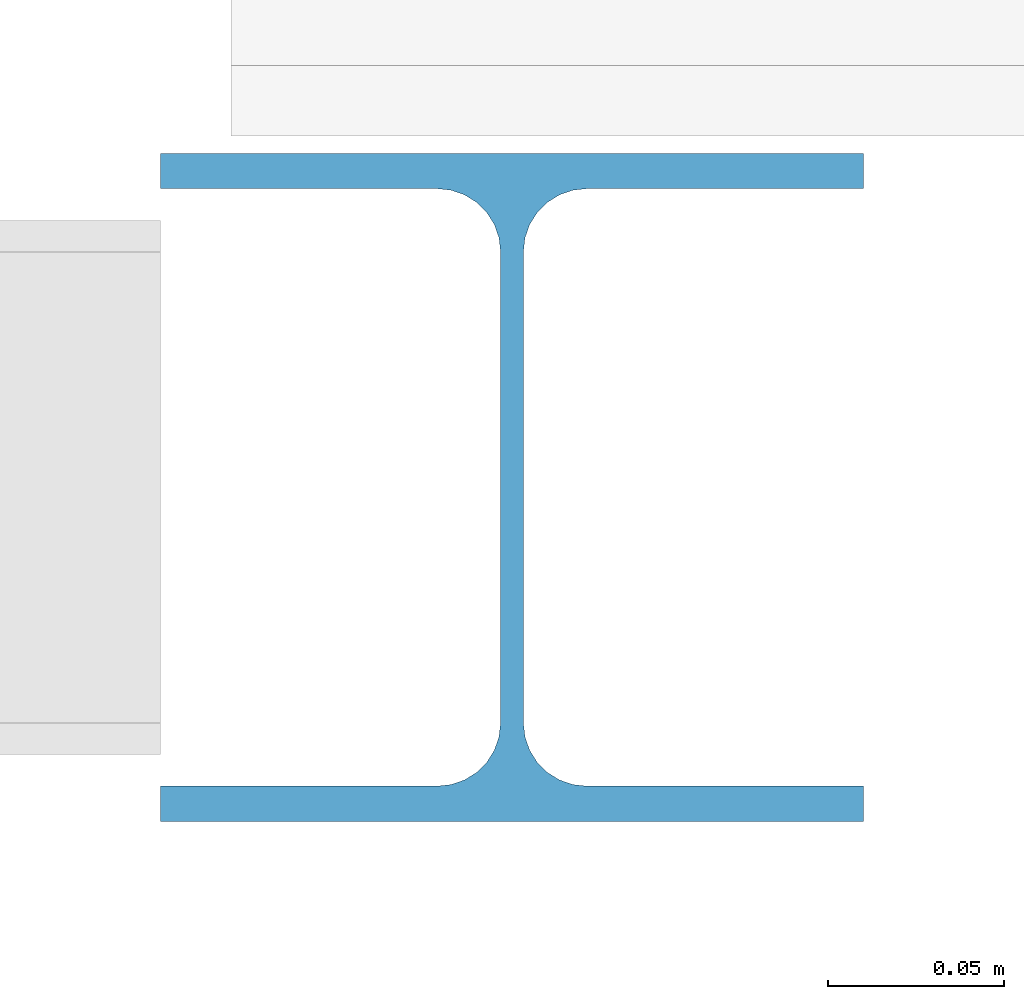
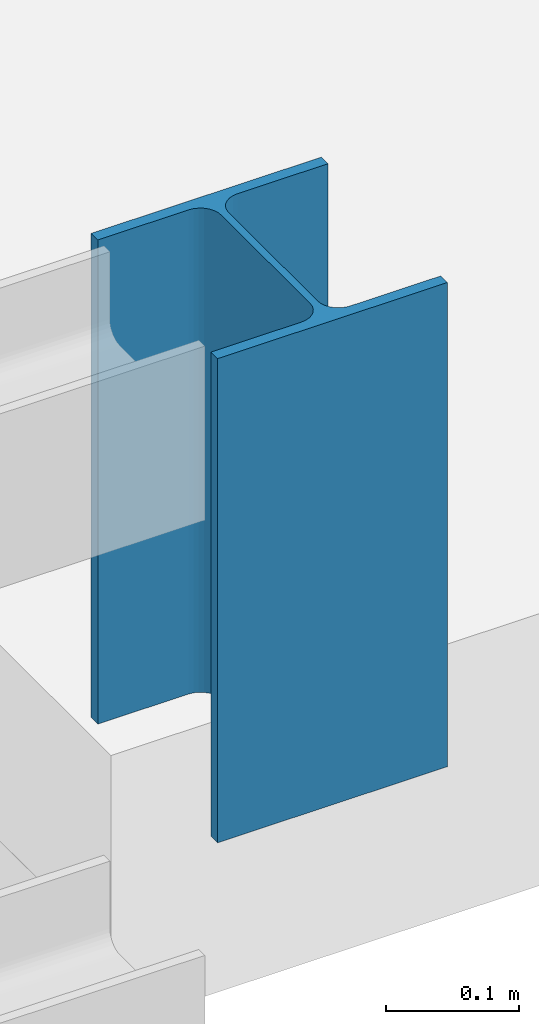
# One storey, part 6 of 36: 1 column.
"""IFC2X3 building model written with IfcOpenShell, lengths in millimetres."""

from ifc_helpers import new_model, entity, si_unit, converted_unit, derived_unit, direction, frame, frame_2d, origin, place, context, subcontext, project, spatial, polyline, circle_curve, parameter, trimmed, segment, composite_curve, outline, extrude, source, transform, mapped, material, type_object, type_shapes, element, save


model = new_model("IFC2X3")

# Units and contexts
model_context = context("Model", 3, precision=0.01, world=origin(), true_north=direction((6.12303176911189e-17, 1.0)))
body_context = subcontext(model_context, "Body", "Model", "MODEL_VIEW")
ifc_project = project(units=[si_unit("LENGTHUNIT", "METRE", prefix="MILLI"), si_unit("AREAUNIT", "SQUARE_METRE"), si_unit("VOLUMEUNIT", "CUBIC_METRE"), converted_unit("PLANEANGLEUNIT", "DEGREE", entity("IfcRatioMeasure", 0.0174532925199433), si_unit("PLANEANGLEUNIT", "RADIAN"), dimensions=[0, 0, 0, 0, 0, 0, 0]), si_unit("MASSUNIT", "GRAM", prefix="KILO"), derived_unit("MASSDENSITYUNIT", [(si_unit("MASSUNIT", "GRAM", prefix="KILO"), 1), (si_unit("LENGTHUNIT", "METRE"), -3)]), si_unit("TIMEUNIT", "SECOND"), si_unit("FREQUENCYUNIT", "HERTZ"), si_unit("THERMODYNAMICTEMPERATUREUNIT", "DEGREE_CELSIUS"), derived_unit("THERMALTRANSMITTANCEUNIT", [(si_unit("MASSUNIT", "GRAM", prefix="KILO"), 1), (si_unit("THERMODYNAMICTEMPERATUREUNIT", "KELVIN"), -1), (si_unit("TIMEUNIT", "SECOND"), -3)]), derived_unit("VOLUMETRICFLOWRATEUNIT", [(si_unit("LENGTHUNIT", "METRE"), 3), (si_unit("TIMEUNIT", "SECOND"), -1)]), si_unit("ELECTRICCURRENTUNIT", "AMPERE"), si_unit("ELECTRICVOLTAGEUNIT", "VOLT"), si_unit("POWERUNIT", "WATT"), si_unit("FORCEUNIT", "NEWTON", prefix="KILO"), si_unit("ILLUMINANCEUNIT", "LUX"), si_unit("LUMINOUSFLUXUNIT", "LUMEN"), si_unit("LUMINOUSINTENSITYUNIT", "CANDELA"), derived_unit("USERDEFINED", [(si_unit("MASSUNIT", "GRAM", prefix="KILO"), -1), (si_unit("LENGTHUNIT", "METRE"), -2), (si_unit("TIMEUNIT", "SECOND"), 3), (si_unit("LUMINOUSFLUXUNIT", "LUMEN"), 1)]), derived_unit("LINEARVELOCITYUNIT", [(si_unit("LENGTHUNIT", "METRE"), 1), (si_unit("TIMEUNIT", "SECOND"), -1)]), si_unit("PRESSUREUNIT", "PASCAL"), derived_unit("USERDEFINED", [(si_unit("LENGTHUNIT", "METRE"), -2), (si_unit("MASSUNIT", "GRAM", prefix="KILO"), 1), (si_unit("TIMEUNIT", "SECOND"), -2)])], contexts=[model_context])

# Site, building, storey
site_placement = place(None, origin())
site = spatial("IfcSite", under=ifc_project, at=site_placement, Name="Default", CompositionType="ELEMENT")
building_placement = place(site_placement, origin())
building = spatial("IfcBuilding", under=site, at=building_placement, Name="niet gebruiken", CompositionType="ELEMENT")
storey_placement = place(building_placement, frame((0.0, 0.0, 12600.0)))
storey = spatial("IfcBuildingStorey", under=building, at=storey_placement, Name="04 vierde verdieping", CompositionType="ELEMENT", Elevation=12600.0)

# Column
ifc_material = material(Name="NLRS_h2_staal")
column_type = type_object("IfcColumnType", Name="kolom HEA 200", PredefinedType="COLUMN", material=ifc_material)
shared_shape = source(origin(), body_context, "Body", "SweptSolid", [
    extrude(outline(composite_curve([segment(polyline([(85.0, -100.0), (95.0, -100.0)]), True, "CONTINUOUS"), segment(polyline([(95.0, -100.0), (95.0, 100.0)]), True, "CONTINUOUS"), segment(polyline([(95.0, 100.0), (85.0, 100.0)]), True, "CONTINUOUS"), segment(polyline([(85.0, 100.0), (85.0, 21.2499999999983)]), True, "CONTINUOUS"), segment(trimmed(circle_curve(frame_2d((67.0, 21.2499999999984), x_axis=(1.0, 0.0)), 18.0), [parameter(270.0)], [parameter(0.0)], True, "PARAMETER"), False, "CONTINUOUS"), segment(polyline([(67.0, 3.24999999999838), (-67.0, 3.24999999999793)]), True, "CONTINUOUS"), segment(trimmed(circle_curve(frame_2d((-67.0, 21.2499999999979), x_axis=(0.0, -1.0)), 18.0), [parameter(270.0)], [parameter(0.0)], True, "PARAMETER"), False, "CONTINUOUS"), segment(polyline([(-85.0, 21.2499999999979), (-85.0, 100.0)]), True, "CONTINUOUS"), segment(polyline([(-85.0, 100.0), (-95.0, 100.0)]), True, "CONTINUOUS"), segment(polyline([(-95.0, 100.0), (-95.0, -100.0)]), True, "CONTINUOUS"), segment(polyline([(-95.0, -100.0), (-85.0, -100.0)]), True, "CONTINUOUS"), segment(polyline([(-85.0, -100.0), (-85.0, -21.250000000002)]), True, "CONTINUOUS"), segment(trimmed(circle_curve(frame_2d((-67.0, -21.2500000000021), x_axis=(-1.0, 0.0)), 18.0), [parameter(270.0)], [parameter(0.0)], True, "PARAMETER"), False, "CONTINUOUS"), segment(polyline([(-67.0, -3.25000000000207), (67.0, -3.25000000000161)]), True, "CONTINUOUS"), segment(trimmed(circle_curve(frame_2d((67.0, -21.2500000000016), x_axis=(0.0, 1.0)), 18.0), [parameter(270.0)], [parameter(0.0)], True, "PARAMETER"), False, "CONTINUOUS"), segment(polyline([(85.0, -21.2500000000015), (85.0, -100.0)]), True, "CONTINUOUS")], self_intersect=False)), frame((0.0, 0.0, 12555.0), z_axis=(0.0, 0.0, 1.0), x_axis=(0.0, -1.0, 0.0)), (0.0, 0.0, 1.0), 445.000000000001),
])
type_shapes(column_type, [shared_shape])
column_placement = place(storey_placement, frame((59400.0, 300.0, -12600.0), z_axis=(0.0, 0.0, 1.0), x_axis=(-1.0, 0.0, 0.0)))
element("IfcColumn", 1, at=column_placement, inside=storey, type_object=column_type, material=ifc_material, Name="NLRS_28.11_SCO_TLB_stalen kolom HEA_gen:kolom HEA 200", ObjectType="kolom HEA 200", context=body_context, shape_type="MappedRepresentation", body=[
    mapped(shared_shape, transform((0.0, 0.0, 0.0), scale=1.0)),
])

save(model, "model.ifc")
